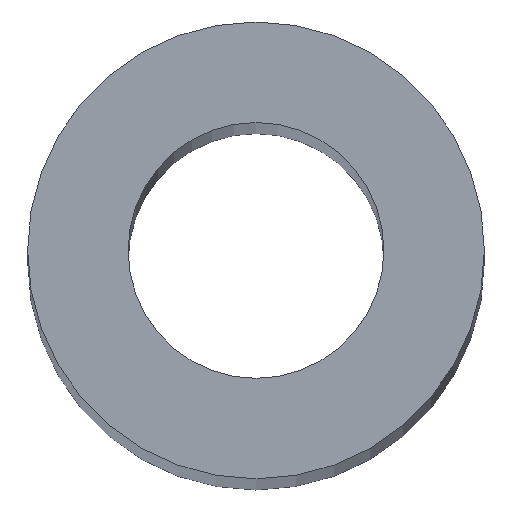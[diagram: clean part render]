
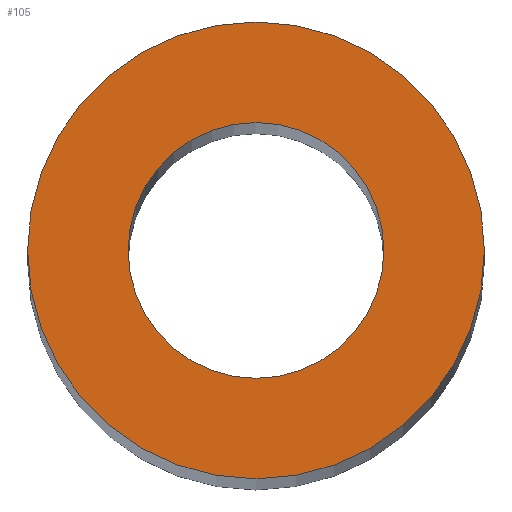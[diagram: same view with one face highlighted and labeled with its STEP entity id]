
A CAD part, top view. The second image highlights one B-rep face of the part: STEP entity #105.
In plain terms, the highlighted planar face has unit normal (0, 0, 1).
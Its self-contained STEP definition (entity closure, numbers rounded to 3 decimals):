
#21 = EDGE_CURVE('',#22,#22,#24,.T.);
#22 = VERTEX_POINT('',#23);
#23 = CARTESIAN_POINT('',(27.,-100.,200.));
#24 = SURFACE_CURVE('',#25,(#30,#42),.PCURVE_S1.);
#25 = CIRCLE('',#26,5.);
#26 = AXIS2_PLACEMENT_3D('',#27,#28,#29);
#27 = CARTESIAN_POINT('',(22.,-100.,200.));
#28 = DIRECTION('',(0.,0.,1.));
#29 = DIRECTION('',(1.,0.,-0.));
#30 = PCURVE('',#31,#36);
#31 = CYLINDRICAL_SURFACE('',#32,5.);
#32 = AXIS2_PLACEMENT_3D('',#33,#34,#35);
#33 = CARTESIAN_POINT('',(22.,-100.,60.));
#34 = DIRECTION('',(0.,0.,1.));
#35 = DIRECTION('',(1.,0.,-0.));
#36 = DEFINITIONAL_REPRESENTATION('',(#37),#41);
#37 = LINE('',#38,#39);
#38 = CARTESIAN_POINT('',(0.,140.));
#39 = VECTOR('',#40,1.);
#40 = DIRECTION('',(1.,0.));
#41 = ( GEOMETRIC_REPRESENTATION_CONTEXT(2) 
PARAMETRIC_REPRESENTATION_CONTEXT() REPRESENTATION_CONTEXT('2D SPACE',''
  ) );
#42 = PCURVE('',#43,#48);
#43 = PLANE('',#44);
#44 = AXIS2_PLACEMENT_3D('',#45,#46,#47);
#45 = CARTESIAN_POINT('',(22.,-100.,200.));
#46 = DIRECTION('',(0.,0.,1.));
#47 = DIRECTION('',(1.,0.,-0.));
#48 = DEFINITIONAL_REPRESENTATION('',(#49),#53);
#49 = CIRCLE('',#50,5.);
#50 = AXIS2_PLACEMENT_2D('',#51,#52);
#51 = CARTESIAN_POINT('',(0.,0.));
#52 = DIRECTION('',(1.,0.));
#53 = ( GEOMETRIC_REPRESENTATION_CONTEXT(2) 
PARAMETRIC_REPRESENTATION_CONTEXT() REPRESENTATION_CONTEXT('2D SPACE',''
  ) );
#105 = ADVANCED_FACE('',(#106,#109),#43,.T.);
#106 = FACE_BOUND('',#107,.T.);
#107 = EDGE_LOOP('',(#108));
#108 = ORIENTED_EDGE('',*,*,#21,.T.);
#109 = FACE_BOUND('',#110,.T.);
#110 = EDGE_LOOP('',(#111));
#111 = ORIENTED_EDGE('',*,*,#112,.F.);
#112 = EDGE_CURVE('',#113,#113,#115,.T.);
#113 = VERTEX_POINT('',#114);
#114 = CARTESIAN_POINT('',(24.8,-100.,200.));
#115 = SURFACE_CURVE('',#116,(#121,#128),.PCURVE_S1.);
#116 = CIRCLE('',#117,2.8);
#117 = AXIS2_PLACEMENT_3D('',#118,#119,#120);
#118 = CARTESIAN_POINT('',(22.,-100.,200.));
#119 = DIRECTION('',(0.,0.,1.));
#120 = DIRECTION('',(1.,0.,-0.));
#121 = PCURVE('',#43,#122);
#122 = DEFINITIONAL_REPRESENTATION('',(#123),#127);
#123 = CIRCLE('',#124,2.8);
#124 = AXIS2_PLACEMENT_2D('',#125,#126);
#125 = CARTESIAN_POINT('',(0.,0.));
#126 = DIRECTION('',(1.,0.));
#127 = ( GEOMETRIC_REPRESENTATION_CONTEXT(2) 
PARAMETRIC_REPRESENTATION_CONTEXT() REPRESENTATION_CONTEXT('2D SPACE',''
  ) );
#128 = PCURVE('',#129,#134);
#129 = CYLINDRICAL_SURFACE('',#130,2.8);
#130 = AXIS2_PLACEMENT_3D('',#131,#132,#133);
#131 = CARTESIAN_POINT('',(22.,-100.,60.));
#132 = DIRECTION('',(0.,0.,1.));
#133 = DIRECTION('',(1.,0.,-0.));
#134 = DEFINITIONAL_REPRESENTATION('',(#135),#139);
#135 = LINE('',#136,#137);
#136 = CARTESIAN_POINT('',(0.,140.));
#137 = VECTOR('',#138,1.);
#138 = DIRECTION('',(1.,0.));
#139 = ( GEOMETRIC_REPRESENTATION_CONTEXT(2) 
PARAMETRIC_REPRESENTATION_CONTEXT() REPRESENTATION_CONTEXT('2D SPACE',''
  ) );
